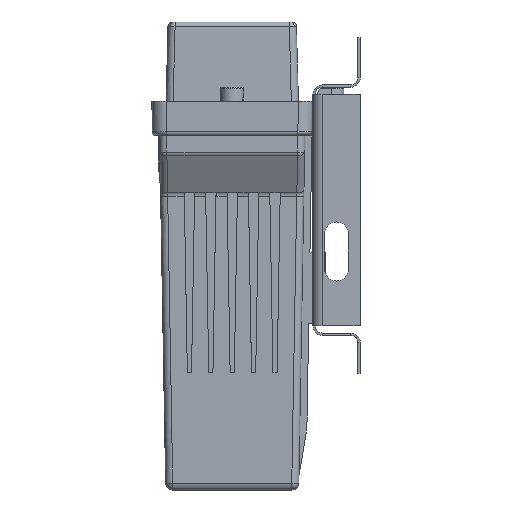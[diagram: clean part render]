
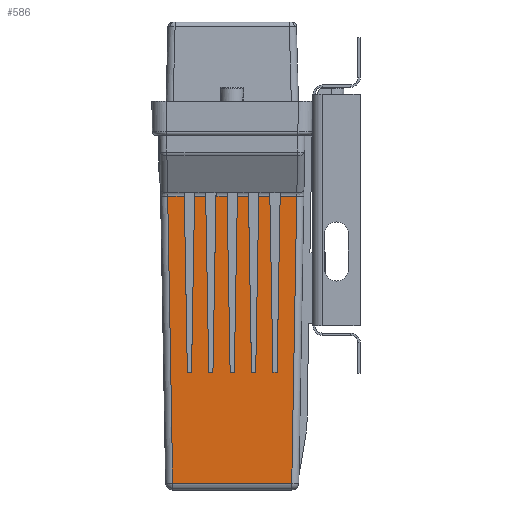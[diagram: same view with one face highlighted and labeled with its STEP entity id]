
A CAD part, left-side view. The second image highlights one B-rep face of the part: STEP entity #586.
In plain terms, the highlighted planar face has unit normal (-1, 0, -0.018).
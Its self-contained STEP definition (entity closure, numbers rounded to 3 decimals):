
#586=ADVANCED_FACE('',(#10159),#10161,.T.);
#10159=FACE_OUTER_BOUND('',#10160,.T.);
#10160=EDGE_LOOP('',(#15611,#15612,#15613,#15614,#15615,#15616,#15617,#15618,#15619,
#15620,#15621,#15622,#15623,#15624,#15625,#15626,#15627,#15628,#15629,#15630,#15631,
#15632,#15633,#15634));
#10161=PLANE('',#10162);
#10162=AXIS2_PLACEMENT_3D('',#10163,#10164,#10165);
#10163=CARTESIAN_POINT('',(-59.5,26.63,0.));
#10164=DIRECTION('',(-1.,0.,-0.017));
#10165=DIRECTION('',(-0.017,0.,1.));
#15611=ORIENTED_EDGE('',*,*,#18416,.T.);
#15612=ORIENTED_EDGE('',*,*,#18417,.T.);
#15613=ORIENTED_EDGE('',*,*,#18418,.T.);
#15614=ORIENTED_EDGE('',*,*,#18419,.F.);
#15615=ORIENTED_EDGE('',*,*,#18420,.T.);
#15616=ORIENTED_EDGE('',*,*,#18421,.T.);
#15617=ORIENTED_EDGE('',*,*,#18422,.T.);
#15618=ORIENTED_EDGE('',*,*,#18423,.F.);
#15619=ORIENTED_EDGE('',*,*,#18424,.T.);
#15620=ORIENTED_EDGE('',*,*,#18425,.T.);
#15621=ORIENTED_EDGE('',*,*,#18426,.T.);
#15622=ORIENTED_EDGE('',*,*,#18427,.T.);
#15623=ORIENTED_EDGE('',*,*,#18428,.T.);
#15624=ORIENTED_EDGE('',*,*,#18429,.T.);
#15625=ORIENTED_EDGE('',*,*,#18430,.T.);
#15626=ORIENTED_EDGE('',*,*,#18431,.T.);
#15627=ORIENTED_EDGE('',*,*,#18262,.T.);
#15628=ORIENTED_EDGE('',*,*,#18415,.T.);
#15629=ORIENTED_EDGE('',*,*,#18432,.T.);
#15630=ORIENTED_EDGE('',*,*,#18433,.T.);
#15631=ORIENTED_EDGE('',*,*,#18434,.T.);
#15632=ORIENTED_EDGE('',*,*,#18435,.T.);
#15633=ORIENTED_EDGE('',*,*,#18436,.T.);
#15634=ORIENTED_EDGE('',*,*,#18437,.F.);
#18262=EDGE_CURVE('',#20994,#20991,#20995,.T.);
#18415=EDGE_CURVE('',#20991,#21233,#21235,.T.);
#18416=EDGE_CURVE('',#21236,#21237,#21238,.T.);
#18417=EDGE_CURVE('',#21237,#21239,#21240,.T.);
#18418=EDGE_CURVE('',#21239,#21241,#21242,.T.);
#18419=EDGE_CURVE('',#21243,#21241,#21244,.T.);
#18420=EDGE_CURVE('',#21243,#21245,#21246,.T.);
#18421=EDGE_CURVE('',#21245,#21247,#21248,.T.);
#18422=EDGE_CURVE('',#21247,#21249,#21250,.T.);
#18423=EDGE_CURVE('',#21251,#21249,#21252,.T.);
#18424=EDGE_CURVE('',#21251,#21253,#21254,.T.);
#18425=EDGE_CURVE('',#21253,#21255,#21256,.T.);
#18426=EDGE_CURVE('',#21255,#21257,#21258,.T.);
#18427=EDGE_CURVE('',#21257,#21259,#21260,.T.);
#18428=EDGE_CURVE('',#21259,#21261,#21262,.T.);
#18429=EDGE_CURVE('',#21261,#21263,#21264,.T.);
#18430=EDGE_CURVE('',#21263,#21265,#21266,.T.);
#18431=EDGE_CURVE('',#21265,#20994,#21267,.T.);
#18432=EDGE_CURVE('',#21233,#21268,#21269,.T.);
#18433=EDGE_CURVE('',#21268,#21270,#21271,.T.);
#18434=EDGE_CURVE('',#21270,#21272,#21273,.T.);
#18435=EDGE_CURVE('',#21272,#21274,#21275,.T.);
#18436=EDGE_CURVE('',#21274,#21276,#21277,.T.);
#18437=EDGE_CURVE('',#21236,#21276,#21278,.T.);
#20991=VERTEX_POINT('',#31041);
#20994=VERTEX_POINT('',#31064);
#20995=LINE('',#31065,#31066);
#21233=VERTEX_POINT('',#32185);
#21235=LINE('',#32190,#32191);
#21236=VERTEX_POINT('',#32193);
#21237=VERTEX_POINT('',#32194);
#21238=LINE('',#32195,#32196);
#21239=VERTEX_POINT('',#32198);
#21240=LINE('',#32199,#32200);
#21241=VERTEX_POINT('',#32202);
#21242=LINE('',#32203,#32204);
#21243=VERTEX_POINT('',#32206);
#21244=LINE('',#32207,#32208);
#21245=VERTEX_POINT('',#32210);
#21246=LINE('',#32211,#32212);
#21247=VERTEX_POINT('',#32214);
#21248=LINE('',#32215,#32216);
#21249=VERTEX_POINT('',#32218);
#21250=LINE('',#32219,#32220);
#21251=VERTEX_POINT('',#32222);
#21252=LINE('',#32223,#32224);
#21253=VERTEX_POINT('',#32226);
#21254=LINE('',#32227,#32228);
#21255=VERTEX_POINT('',#32230);
#21256=LINE('',#32231,#32232);
#21257=VERTEX_POINT('',#32234);
#21258=LINE('',#32235,#32236);
#21259=VERTEX_POINT('',#32238);
#21260=LINE('',#32239,#32240);
#21261=VERTEX_POINT('',#32242);
#21262=LINE('',#32243,#32244);
#21263=VERTEX_POINT('',#32246);
#21264=LINE('',#32247,#32248);
#21265=VERTEX_POINT('',#32250);
#21266=LINE('',#32251,#32252);
#21267=LINE('',#32254,#32255);
#21268=VERTEX_POINT('',#32257);
#21269=LINE('',#32258,#32259);
#21270=VERTEX_POINT('',#32261);
#21271=LINE('',#32262,#32263);
#21272=VERTEX_POINT('',#32265);
#21273=LINE('',#32266,#32267);
#21274=VERTEX_POINT('',#32269);
#21275=LINE('',#32270,#32271);
#21276=VERTEX_POINT('',#32273);
#21277=LINE('',#32274,#32275);
#21278=LINE('',#32277,#32278);
#31041=CARTESIAN_POINT('',(-61.668,-27.299,124.224));
#31064=CARTESIAN_POINT('',(-59.551,-25.182,2.948));
#31065=CARTESIAN_POINT('',(-59.551,-25.182,2.948));
#31066=VECTOR('',#31067,1.);
#31067=DIRECTION('',(-0.017,-0.017,1.));
#32185=CARTESIAN_POINT('',(-61.668,-20.281,124.224));
#32190=CARTESIAN_POINT('',(-61.668,-27.299,124.224));
#32191=VECTOR('',#32192,1.);
#32192=DIRECTION('',(0.,1.,0.));
#32193=CARTESIAN_POINT('',(-60.371,-8.166,49.887));
#32194=CARTESIAN_POINT('',(-61.668,-6.869,124.224));
#32195=CARTESIAN_POINT('',(-60.371,-8.166,49.887));
#32196=VECTOR('',#32197,1.);
#32197=DIRECTION('',(-0.017,0.017,1.));
#32198=CARTESIAN_POINT('',(-61.668,-2.181,124.224));
#32199=CARTESIAN_POINT('',(-61.668,-6.869,124.224));
#32200=VECTOR('',#32201,1.);
#32201=DIRECTION('',(0.,1.,0.));
#32202=CARTESIAN_POINT('',(-60.371,-0.884,49.887));
#32203=CARTESIAN_POINT('',(-61.668,-2.181,124.224));
#32204=VECTOR('',#32205,1.);
#32205=DIRECTION('',(0.017,0.017,-1.));
#32206=CARTESIAN_POINT('',(-60.371,0.884,49.887));
#32207=CARTESIAN_POINT('',(-60.371,0.884,49.887));
#32208=VECTOR('',#32209,1.);
#32209=DIRECTION('',(0.,-1.,0.));
#32210=CARTESIAN_POINT('',(-61.668,2.181,124.224));
#32211=CARTESIAN_POINT('',(-60.371,0.884,49.887));
#32212=VECTOR('',#32213,1.);
#32213=DIRECTION('',(-0.017,0.017,1.));
#32214=CARTESIAN_POINT('',(-61.668,6.869,124.224));
#32215=CARTESIAN_POINT('',(-61.668,2.181,124.224));
#32216=VECTOR('',#32217,1.);
#32217=DIRECTION('',(0.,1.,0.));
#32218=CARTESIAN_POINT('',(-60.371,8.166,49.887));
#32219=CARTESIAN_POINT('',(-61.668,6.869,124.224));
#32220=VECTOR('',#32221,1.);
#32221=DIRECTION('',(0.017,0.017,-1.));
#32222=CARTESIAN_POINT('',(-60.371,9.934,49.887));
#32223=CARTESIAN_POINT('',(-60.371,9.934,49.887));
#32224=VECTOR('',#32225,1.);
#32225=DIRECTION('',(0.,-1.,0.));
#32226=CARTESIAN_POINT('',(-61.668,11.231,124.224));
#32227=CARTESIAN_POINT('',(-60.371,9.934,49.887));
#32228=VECTOR('',#32229,1.);
#32229=DIRECTION('',(-0.017,0.017,1.));
#32230=CARTESIAN_POINT('',(-61.668,15.919,124.224));
#32231=CARTESIAN_POINT('',(-61.668,11.231,124.224));
#32232=VECTOR('',#32233,1.);
#32233=DIRECTION('',(0.,1.,0.));
#32234=CARTESIAN_POINT('',(-60.371,17.216,49.887));
#32235=CARTESIAN_POINT('',(-61.668,15.919,124.224));
#32236=VECTOR('',#32237,1.);
#32237=DIRECTION('',(0.017,0.017,-1.));
#32238=CARTESIAN_POINT('',(-60.371,18.984,49.887));
#32239=CARTESIAN_POINT('',(-60.371,17.216,49.887));
#32240=VECTOR('',#32241,1.);
#32241=DIRECTION('',(0.,1.,0.));
#32242=CARTESIAN_POINT('',(-61.668,20.281,124.224));
#32243=CARTESIAN_POINT('',(-60.371,18.984,49.887));
#32244=VECTOR('',#32245,1.);
#32245=DIRECTION('',(-0.017,0.017,1.));
#32246=CARTESIAN_POINT('',(-61.668,27.299,124.224));
#32247=CARTESIAN_POINT('',(-61.668,20.281,124.224));
#32248=VECTOR('',#32249,1.);
#32249=DIRECTION('',(0.,1.,0.));
#32250=CARTESIAN_POINT('',(-59.551,25.182,2.948));
#32251=CARTESIAN_POINT('',(-61.668,27.299,124.224));
#32252=VECTOR('',#32253,1.);
#32253=DIRECTION('',(0.017,-0.017,-1.));
#32254=CARTESIAN_POINT('',(-59.551,25.182,2.948));
#32255=VECTOR('',#32256,1.);
#32256=DIRECTION('',(0.,-1.,0.));
#32257=CARTESIAN_POINT('',(-60.371,-18.984,49.887));
#32258=CARTESIAN_POINT('',(-61.668,-20.281,124.224));
#32259=VECTOR('',#32260,1.);
#32260=DIRECTION('',(0.017,0.017,-1.));
#32261=CARTESIAN_POINT('',(-60.371,-17.216,49.887));
#32262=CARTESIAN_POINT('',(-60.371,-18.984,49.887));
#32263=VECTOR('',#32264,1.);
#32264=DIRECTION('',(0.,1.,0.));
#32265=CARTESIAN_POINT('',(-61.668,-15.919,124.224));
#32266=CARTESIAN_POINT('',(-60.371,-17.216,49.887));
#32267=VECTOR('',#32268,1.);
#32268=DIRECTION('',(-0.017,0.017,1.));
#32269=CARTESIAN_POINT('',(-61.668,-11.231,124.224));
#32270=CARTESIAN_POINT('',(-61.668,-15.919,124.224));
#32271=VECTOR('',#32272,1.);
#32272=DIRECTION('',(0.,1.,0.));
#32273=CARTESIAN_POINT('',(-60.371,-9.934,49.887));
#32274=CARTESIAN_POINT('',(-61.668,-11.231,124.224));
#32275=VECTOR('',#32276,1.);
#32276=DIRECTION('',(0.017,0.017,-1.));
#32277=CARTESIAN_POINT('',(-60.371,-8.166,49.887));
#32278=VECTOR('',#32279,1.);
#32279=DIRECTION('',(0.,-1.,0.));
